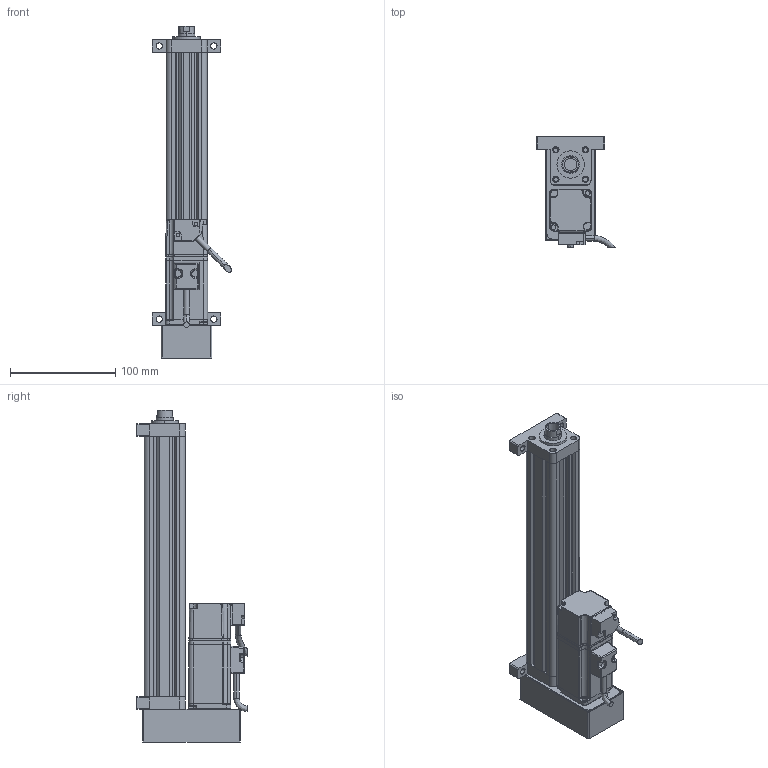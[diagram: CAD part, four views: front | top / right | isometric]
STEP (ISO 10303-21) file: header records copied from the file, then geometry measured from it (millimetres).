
FILE_DESCRIPTION (( 'STEP AP214' ), '1' );
FILE_NAME ('039-S200-D02-B-M2-C2-2.STEP', '2021-02-25T08:50:26', ( '' ), ( '' ), 'SwSTEP 2.0', 'SolidWorks 2018', '' );
FILE_SCHEMA (( 'AUTOMOTIVE_DESIGN' ));
Length unit declared in the file: millimetre
Products named in the file (8): CMC039-XT; CMC039-DT; CMC039-QDB; CMC039-GT; 039-S200-D02-B-M2-C2-2; ECMA-CX0401ES-40框號系列機種-100W低慣量系列; CMC039-LJB; CMC039-HDB
Assembly tree (7 placements, depth 2):
  039-S200-D02-B-M2-C2-2
    CMC039-GT
    CMC039-LJB
    CMC039-XT
    CMC039-DT
    ECMA-CX0401ES-40框號系列機種-100W低慣量系列
    CMC039-QDB
    CMC039-HDB
Bounding box: 75.34 x 104.89 x 316 mm (x, y, z)
Volume: 464289.3 mm3; surface area: 168721.1 mm2
Topology: 7 solids, 15 shells, 634 faces, 1654 edges, 1031 vertices
Faces by surface type: cylinder 260, plane 253, bspline 84, cone 37
Entity records: 25486 total; most frequent: CARTESIAN_POINT 10811, ORIENTED_EDGE 3242, DIRECTION 2571, EDGE_CURVE 1621, VERTEX_POINT 1031, AXIS2_PLACEMENT_3D 878, LINE 815, VECTOR 815
